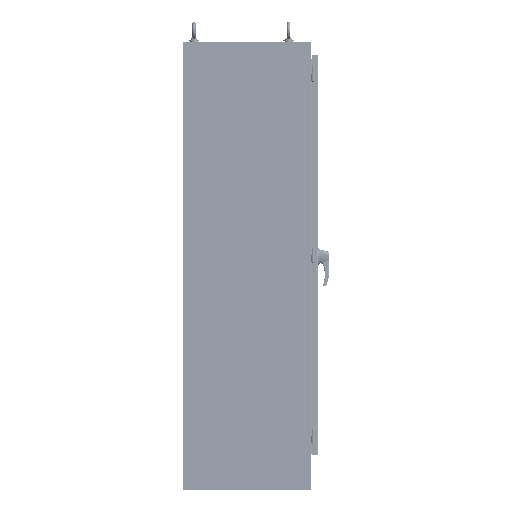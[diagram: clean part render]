
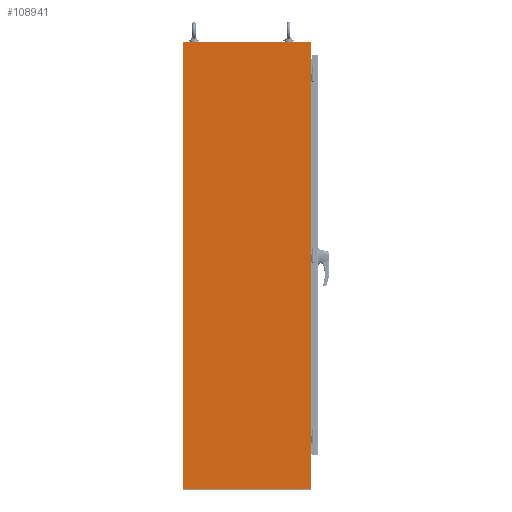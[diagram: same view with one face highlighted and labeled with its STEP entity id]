
A CAD part, left-side view. The second image highlights one B-rep face of the part: STEP entity #108941.
In plain terms, the highlighted planar face has unit normal (-1, 0, 0) as drawn and (0, -1, 0) by its records, which use the part's own axes.
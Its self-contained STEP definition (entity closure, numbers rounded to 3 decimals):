
#12159=CIRCLE('',#116078,0.381);
#14686=ORIENTED_EDGE('',*,*,#46559,.F.);
#14687=ORIENTED_EDGE('',*,*,#46560,.T.);
#14688=ORIENTED_EDGE('',*,*,#46499,.T.);
#14689=ORIENTED_EDGE('',*,*,#46561,.T.);
#14690=ORIENTED_EDGE('',*,*,#46562,.T.);
#14691=ORIENTED_EDGE('',*,*,#46563,.T.);
#14692=ORIENTED_EDGE('',*,*,#46564,.F.);
#46499=EDGE_CURVE('',#62536,#62535,#73457,.T.);
#46559=EDGE_CURVE('',#62575,#62587,#12159,.T.);
#46560=EDGE_CURVE('',#62575,#62536,#73506,.T.);
#46561=EDGE_CURVE('',#62535,#62588,#73507,.T.);
#46562=EDGE_CURVE('',#62588,#62589,#73508,.T.);
#46563=EDGE_CURVE('',#62589,#62590,#73509,.T.);
#46564=EDGE_CURVE('',#62587,#62590,#73510,.T.);
#62535=VERTEX_POINT('',#147440);
#62536=VERTEX_POINT('',#147442);
#62575=VERTEX_POINT('',#147526);
#62587=VERTEX_POINT('',#147559);
#62588=VERTEX_POINT('',#147562);
#62589=VERTEX_POINT('',#147564);
#62590=VERTEX_POINT('',#147566);
#73457=LINE('',#147441,#81063);
#73506=LINE('',#147560,#81112);
#73507=LINE('',#147561,#81113);
#73508=LINE('',#147563,#81114);
#73509=LINE('',#147565,#81115);
#73510=LINE('',#147567,#81116);
#81063=VECTOR('',#124477,1000.);
#81112=VECTOR('',#124562,1000.);
#81113=VECTOR('',#124563,1000.);
#81114=VECTOR('',#124564,1000.);
#81115=VECTOR('',#124565,1000.);
#81116=VECTOR('',#124566,1000.);
#88510=EDGE_LOOP('',(#14686,#14687,#14688,#14689,#14690,#14691,#14692));
#96291=FACE_BOUND('',#88510,.T.);
#103962=PLANE('',#116077);
#108941=ADVANCED_FACE('',(#96291),#103962,.T.);
#116077=AXIS2_PLACEMENT_3D('',#147557,#124558,#124559);
#116078=AXIS2_PLACEMENT_3D('',#147558,#124560,#124561);
#124477=DIRECTION('',(-1.,0.,0.));
#124558=DIRECTION('',(0.,-1.,0.));
#124559=DIRECTION('',(0.,0.,-1.));
#124560=DIRECTION('',(0.,-1.,0.));
#124561=DIRECTION('',(0.,0.,1.));
#124562=DIRECTION('',(0.,0.,1.));
#124563=DIRECTION('',(0.,0.,-1.));
#124564=DIRECTION('',(1.,0.,0.));
#124565=DIRECTION('',(0.,0.,1.));
#124566=DIRECTION('',(1.,0.,0.));
#147440=CARTESIAN_POINT('',(0.,0.,2131.949));
#147441=CARTESIAN_POINT('',(607.949,0.,2131.949));
#147442=CARTESIAN_POINT('',(606.73,0.,2131.949));
#147526=CARTESIAN_POINT('',(606.73,0.,171.323));
#147557=CARTESIAN_POINT('',(0.,0.,0.));
#147558=CARTESIAN_POINT('',(606.73,0.,170.942));
#147559=CARTESIAN_POINT('',(606.73,0.,170.561));
#147560=CARTESIAN_POINT('',(606.73,0.,171.323));
#147561=CARTESIAN_POINT('',(0.,0.,2131.949));
#147562=CARTESIAN_POINT('',(0.,0.,0.));
#147563=CARTESIAN_POINT('',(0.,0.,0.));
#147564=CARTESIAN_POINT('',(607.949,0.,0.));
#147565=CARTESIAN_POINT('',(607.949,0.,0.));
#147566=CARTESIAN_POINT('',(607.949,0.,170.561));
#147567=CARTESIAN_POINT('',(606.73,0.,170.561));
